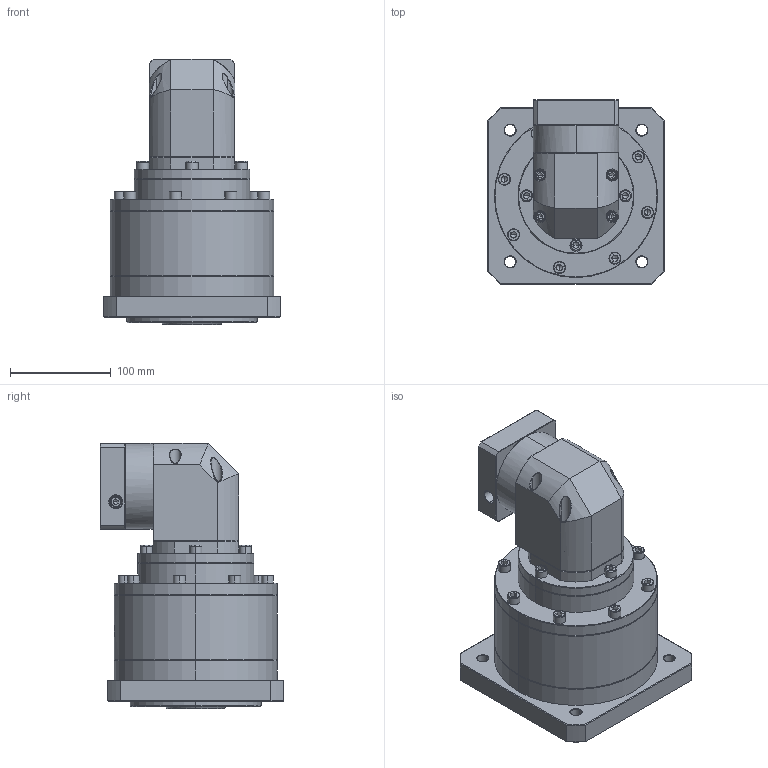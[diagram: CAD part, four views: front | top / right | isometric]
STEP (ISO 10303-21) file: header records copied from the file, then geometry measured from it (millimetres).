
FILE_DESCRIPTION (( 'STEP AP214' ), '1' );
FILE_NAME ('ZFR160A-K35-L3-P2-16-80-100-M6.step', '2023-09-03T10:06:36', ( '' ), ( '' ), 'SwSTEP 2.0', 'SolidWorks 2016', '' );
FILE_SCHEMA (( 'AUTOMOTIVE_DESIGN' ));
Length unit declared in the file: millimetre
Products named in the file (1): ZFR160A-K35-L3-P2-16-80-100-M6
Bounding box: 175 x 182.6 x 263.2 mm (x, y, z)
Volume: 3825215.8 mm3; surface area: 265345.8 mm2
Topology: 6 solids, 6 shells, 2546 faces, 6629 edges, 4212 vertices
Faces by surface type: plane 1231, cylinder 483, bspline 414, cone 360, torus 58
Entity records: 132291 total; most frequent: CARTESIAN_POINT 47069, ORIENTED_EDGE 13122, DIRECTION 10189, EDGE_CURVE 6561, VERTEX_POINT 4212, LINE 3555, VECTOR 3555, AXIS2_PLACEMENT_3D 3317
